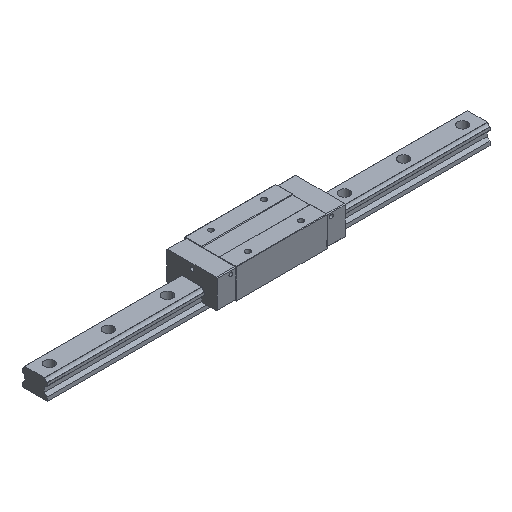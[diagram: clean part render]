
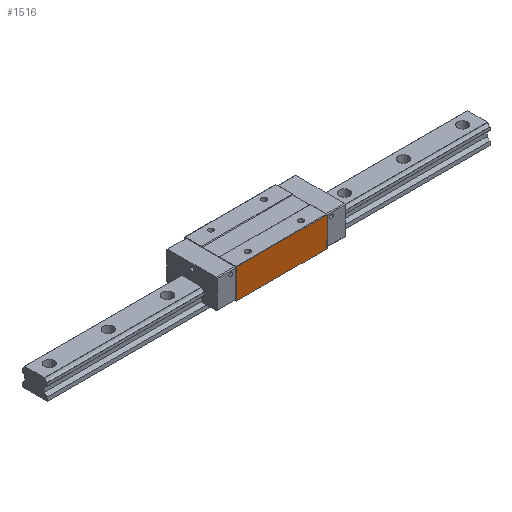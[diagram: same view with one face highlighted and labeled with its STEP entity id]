
A CAD part, isometric view. The second image highlights one B-rep face of the part: STEP entity #1516.
In plain terms, the highlighted planar face has unit normal (0, -1, 0).
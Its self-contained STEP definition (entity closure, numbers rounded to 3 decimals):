
#33 = VECTOR ( 'NONE', #2614, 1000. ) ;
#85 = ORIENTED_EDGE ( 'NONE', *, *, #4600, .F. ) ;
#358 = LINE ( 'NONE', #2094, #828 ) ;
#374 = CARTESIAN_POINT ( 'NONE',  ( 61.5, -35., 47.5 ) ) ;
#541 = LINE ( 'NONE', #4735, #2681 ) ;
#828 = VECTOR ( 'NONE', #3407, 1000. ) ;
#880 = ORIENTED_EDGE ( 'NONE', *, *, #4955, .T. ) ;
#958 = VECTOR ( 'NONE', #4981, 1000. ) ;
#1163 = VERTEX_POINT ( 'NONE', #4438 ) ;
#1272 = CARTESIAN_POINT ( 'NONE',  ( 61.5, -35., 47.5 ) ) ;
#1321 = ORIENTED_EDGE ( 'NONE', *, *, #3226, .T. ) ;
#1516 = ADVANCED_FACE ( 'NONE', ( #3014 ), #3501, .F. ) ;
#1550 = CARTESIAN_POINT ( 'NONE',  ( 61.5, -35., 7.5 ) ) ;
#1822 = VERTEX_POINT ( 'NONE', #4380 ) ;
#1827 = DIRECTION ( 'NONE',  ( 0., 1., 0. ) ) ;
#1871 = AXIS2_PLACEMENT_3D ( 'NONE', #3975, #1827, #2165 ) ;
#1880 = ORIENTED_EDGE ( 'NONE', *, *, #5247, .F. ) ;
#2094 = CARTESIAN_POINT ( 'NONE',  ( -61.5, -35., 48. ) ) ;
#2165 = DIRECTION ( 'NONE',  ( 1., 0., 0. ) ) ;
#2614 = DIRECTION ( 'NONE',  ( -1., 0., 0. ) ) ;
#2681 = VECTOR ( 'NONE', #4802, 1000. ) ;
#2907 = EDGE_LOOP ( 'NONE', ( #85, #880, #1321, #1880 ) ) ;
#3014 = FACE_OUTER_BOUND ( 'NONE', #2907, .T. ) ;
#3125 = VERTEX_POINT ( 'NONE', #4258 ) ;
#3130 = VERTEX_POINT ( 'NONE', #374 ) ;
#3226 = EDGE_CURVE ( 'NONE', #3125, #1822, #358, .T. ) ;
#3407 = DIRECTION ( 'NONE',  ( 0., 0., -1. ) ) ;
#3501 = PLANE ( 'NONE',  #1871 ) ;
#3975 = CARTESIAN_POINT ( 'NONE',  ( 61.5, -35., 48. ) ) ;
#4258 = CARTESIAN_POINT ( 'NONE',  ( -61.5, -35., 47.5 ) ) ;
#4380 = CARTESIAN_POINT ( 'NONE',  ( -61.5, -35., 7.5 ) ) ;
#4438 = CARTESIAN_POINT ( 'NONE',  ( 61.5, -35., 7.5 ) ) ;
#4600 = EDGE_CURVE ( 'NONE', #3130, #1163, #541, .T. ) ;
#4735 = CARTESIAN_POINT ( 'NONE',  ( 61.5, -35., 48. ) ) ;
#4802 = DIRECTION ( 'NONE',  ( 0., 0., -1. ) ) ;
#4955 = EDGE_CURVE ( 'NONE', #3130, #3125, #5222, .T. ) ;
#4981 = DIRECTION ( 'NONE',  ( -1., 0., 0. ) ) ;
#5222 = LINE ( 'NONE', #1272, #33 ) ;
#5247 = EDGE_CURVE ( 'NONE', #1163, #1822, #5350, .T. ) ;
#5350 = LINE ( 'NONE', #1550, #958 ) ;
